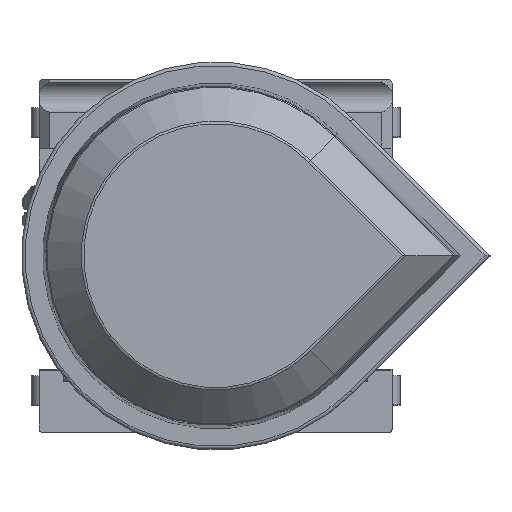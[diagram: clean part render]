
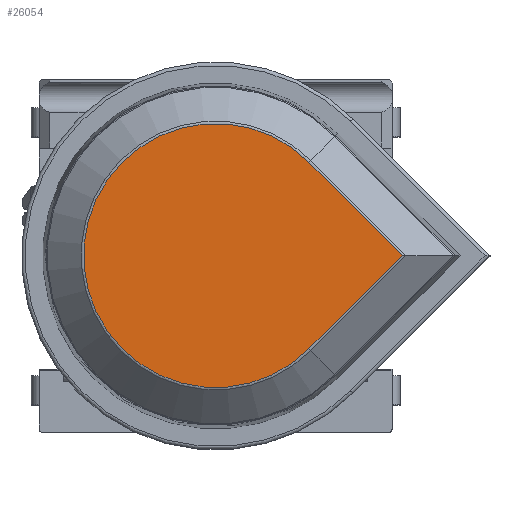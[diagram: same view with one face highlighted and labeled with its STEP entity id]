
A CAD part, top view. The second image highlights one B-rep face of the part: STEP entity #26054.
In plain terms, the highlighted planar face has unit normal (0, 0, 1).
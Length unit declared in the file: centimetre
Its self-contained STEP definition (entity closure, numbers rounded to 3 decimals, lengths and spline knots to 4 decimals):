
#1322=FACE_OUTER_BOUND($,#2684,.T.);
#2684=EDGE_LOOP($,(#16392,#16393,#16394));
#4157=LINE($,#36766,#6650);
#4160=LINE($,#36778,#6653);
#6650=VECTOR($,#29687,0.3742);
#6653=VECTOR($,#29702,0.3742);
#9143=CIRCLE($,#27500,0.3742);
#9907=VERTEX_POINT($,#36762);
#9909=VERTEX_POINT($,#36765);
#9911=VERTEX_POINT($,#36771);
#12453=EDGE_CURVE($,#9909,#9907,#4157,.T.);
#12457=EDGE_CURVE($,#9907,#9911,#9143,.T.);
#12460=EDGE_CURVE($,#9911,#9909,#4160,.T.);
#16392=ORIENTED_EDGE($,*,*,#12453,.T.);
#16393=ORIENTED_EDGE($,*,*,#12457,.T.);
#16394=ORIENTED_EDGE($,*,*,#12460,.T.);
#23771=PLANE($,#27505);
#26054=ADVANCED_FACE($,(#1322),#23771,.T.);
#27500=AXIS2_PLACEMENT_3D($,#36774,#29695,#29696);
#27505=AXIS2_PLACEMENT_3D($,#36789,#29712,#29713);
#29687=DIRECTION($,(-0.707,0.707,0.));
#29695=DIRECTION('center_axis',(0.,0.,
1.));
#29696=DIRECTION('ref_axis',(-1.,0.,0.));
#29702=DIRECTION($,(0.707,0.707,0.));
#29712=DIRECTION('center_axis',(0.,0.,
1.));
#29713=DIRECTION('ref_axis',(0.,-1.,0.));
#36762=CARTESIAN_POINT('',(0.2646,0.2646,1.501));
#36765=CARTESIAN_POINT('',(0.5292,0.,1.501));
#36766=CARTESIAN_POINT($,(0.2964,0.2328,1.501));
#36771=CARTESIAN_POINT('',(0.2646,-0.2646,1.501));
#36774=CARTESIAN_POINT('Origin',(0.,0.,
1.501));
#36778=CARTESIAN_POINT($,(0.3831,-0.1462,1.501));
#36789=CARTESIAN_POINT('Origin',(0.0849,0.,
1.501));
